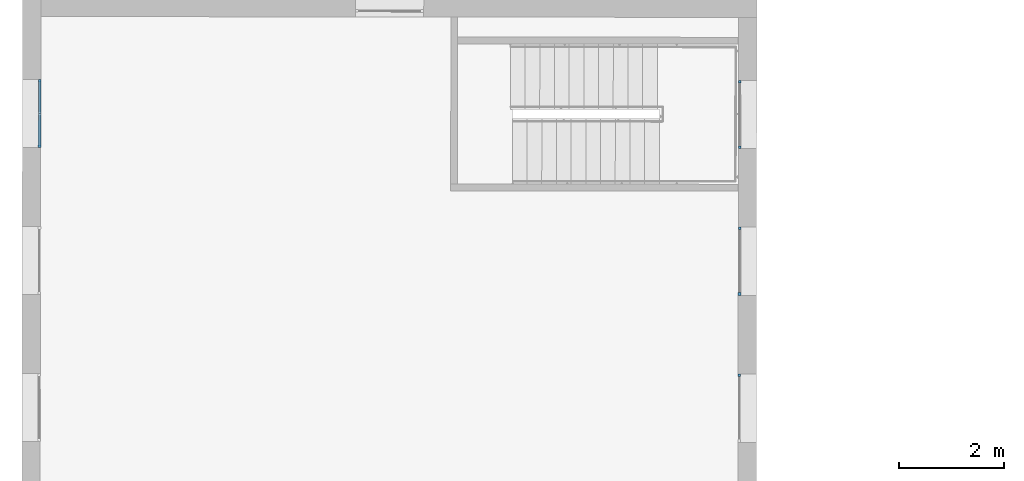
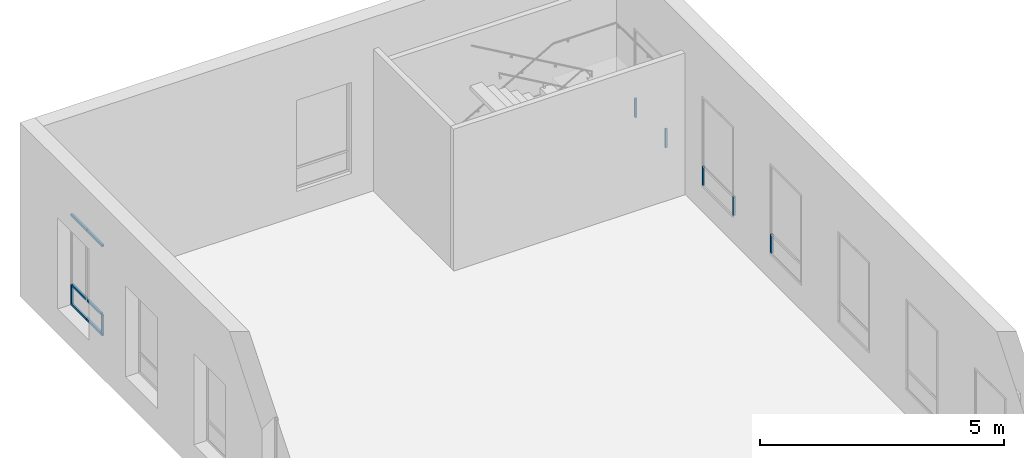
# One storey, part 18 of 35: 13 members, 4 elements without a shape of their own.
"""IFC2X3 building model written with IfcOpenShell, lengths in metres."""

from ifc_helpers import new_model, entity, si_unit, converted_unit, derived_unit, direction, frame, origin, origin_2d_with_axis, place, context, subcontext, project, spatial, rectangle, extrude, source, transform, mapped, material, type_object, type_shapes, element, aggregate, save


model = new_model("IFC2X3")

# Units and contexts
model_context = context("Model", 3, precision=1e-05, world=origin(), true_north=direction((6.123233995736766e-17, 1.0)))
body_context = subcontext(model_context, "Body", "Model", "MODEL_VIEW")
ifc_project = project(units=[si_unit("LENGTHUNIT", "METRE"), si_unit("AREAUNIT", "SQUARE_METRE"), converted_unit("PLANEANGLEUNIT", "DEGREE", entity("IfcPlaneAngleMeasure", 0.017453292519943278), si_unit("PLANEANGLEUNIT", "RADIAN"), dimensions=[0, 0, 0, 0, 0, 0, 0]), derived_unit("THERMALTRANSMITTANCEUNIT", [(si_unit("MASSUNIT", "GRAM", prefix="KILO"), 1), (si_unit("THERMODYNAMICTEMPERATUREUNIT", "KELVIN"), -1), (si_unit("TIMEUNIT", "SECOND"), -3)])], contexts=[model_context])

# Site, building, storey
site_placement = place(None, frame((1253.6752467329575, 2072.143113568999, 91.49999999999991), z_axis=(0.0, 0.0, 1.0), x_axis=(0.7237211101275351, 0.6900925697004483, 0.0)))
site = spatial("IfcSite", under=ifc_project, at=site_placement, Name="Surface", CompositionType="ELEMENT")
building_placement = place(site_placement, origin())
building = spatial("IfcBuilding", under=site, at=building_placement, CompositionType="ELEMENT")
storey_placement = place(building_placement, frame((0.0, 0.0, 3.549999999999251)))
storey = spatial("IfcBuildingStorey", under=building, at=storey_placement, Name="1-R+1", CompositionType="ELEMENT", Elevation=3.549999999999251)

# Curtain wall, members
curtain_wall_type = type_object("IfcCurtainWallType", Name="Mur-rideau:Menuiserie Ext 1F+1OB VERTIC", PredefinedType="NOTDEFINED")
curtain_wall_1_placement = place(storey_placement, frame((0.0, 0.0, -3.549999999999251)))
curtain_wall_1 = element("IfcCurtainWall", 1, at=curtain_wall_1_placement, inside=storey, type_object=curtain_wall_type, Name="Mur-rideau:Menuiserie Ext 1F+1OB VERTIC", ObjectType="Mur-rideau:Menuiserie Ext 1F+1OB VERTIC")
ifc_material = material(Name="OMD_Aluminium Men Ext")
member_type_1 = type_object("IfcMemberType", Name="Meneau rectangulaire:50x50", PredefinedType="MULLION", material=ifc_material)
shared_shape_1 = source(origin(), body_context, "Body", "SweptSolid", [
    extrude(rectangle(XDim=0.05, YDim=0.049999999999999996, at=origin_2d_with_axis()), frame((-0.025, 0.0, -0.4699999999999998), z_axis=(0.0, 0.0, 1.0), x_axis=(-1.0, 0.0, 0.0)), (0.0, 0.0, 1.0), 0.4699999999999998),
])
type_shapes(member_type_1, [shared_shape_1])
member_1_placement = place(curtain_wall_1_placement, frame((165.36430469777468, 26.40354917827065, 4.219999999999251), z_axis=(0.0, 0.0, -1.0), x_axis=(0.6911544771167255, 0.7227070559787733, 0.0)))
member_1 = element("IfcMember", 2, at=member_1_placement, type_object=member_type_1, material=ifc_material, Name="Meneau rectangulaire:50x50", ObjectType="Meneau rectangulaire:50x50", context=body_context, shape_type="MappedRepresentation", body=[
    mapped(shared_shape_1, transform((0.0, 0.0, 0.0), scale=1.0)),
])
member_type_2 = type_object("IfcMemberType", Name="Meneau rectangulaire:50x50", PredefinedType="MULLION", material=ifc_material)
shared_shape_2 = source(origin(), body_context, "Body", "SweptSolid", [
    extrude(rectangle(XDim=0.05, YDim=0.049999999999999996, at=origin_2d_with_axis()), frame((-0.025, 0.0, -0.4699999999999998), z_axis=(0.0, 0.0, 1.0), x_axis=(-1.0, 0.0, 0.0)), (0.0, 0.0, 1.0), 0.4699999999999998),
])
type_shapes(member_type_2, [shared_shape_2])
member_2_placement = place(curtain_wall_1_placement, frame((164.46601405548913, 25.464249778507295, 4.689999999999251), z_axis=(0.0, 0.0, 1.0), x_axis=(-0.6911544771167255, -0.7227070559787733, 0.0)))
member_2 = element("IfcMember", 3, at=member_2_placement, type_object=member_type_2, material=ifc_material, Name="Meneau rectangulaire:50x50", ObjectType="Meneau rectangulaire:50x50", context=body_context, shape_type="MappedRepresentation", body=[
    mapped(shared_shape_2, transform((0.0, 0.0, 0.0), scale=1.0)),
])
member_type_3 = type_object("IfcMemberType", Name="Meneau rectangulaire:50x50", PredefinedType="MULLION", material=ifc_material)
shared_shape_3 = source(origin(), body_context, "Body", "SweptSolid", [
    extrude(rectangle(XDim=0.05, YDim=0.05, at=origin_2d_with_axis()), frame((-0.025, 0.0, -0.6498479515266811), z_axis=(0.0, 0.0, 1.0), x_axis=(-1.0, 0.0, 0.0)), (0.0, 0.0, 1.0), 0.6498479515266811),
])
type_shapes(member_type_3, [shared_shape_3])
member_3_placement = place(curtain_wall_1_placement, frame((164.46601405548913, 25.46424977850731, 4.169999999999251), z_axis=(-0.6911544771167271, -0.7227070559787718, 0.0), x_axis=(0.0, 0.0, -1.0)))
member_3 = element("IfcMember", 4, at=member_3_placement, type_object=member_type_3, material=ifc_material, Name="Meneau rectangulaire:50x50", ObjectType="Meneau rectangulaire:50x50", context=body_context, shape_type="MappedRepresentation", body=[
    mapped(shared_shape_3, transform((0.0, 0.0, 0.0), scale=1.0)),
])
member_type_4 = type_object("IfcMemberType", Name="Meneau rectangulaire:50x50", PredefinedType="MULLION", material=ifc_material)
shared_shape_4 = source(origin(), body_context, "Body", "SweptSolid", [
    extrude(rectangle(XDim=0.05, YDim=0.05, at=origin_2d_with_axis()), frame((-0.025, 0.0, -0.6498479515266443), z_axis=(0.0, 0.0, 1.0), x_axis=(-1.0, 0.0, 0.0)), (0.0, 0.0, 1.0), 0.64984795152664),
])
type_shapes(member_type_4, [shared_shape_4])
member_4_placement = place(curtain_wall_1_placement, frame((164.91515937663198, 25.933899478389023, 4.169999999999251), z_axis=(-0.6911544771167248, -0.722707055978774, 0.0), x_axis=(0.0, 0.0, -1.0)))
member_4 = element("IfcMember", 5, at=member_4_placement, type_object=member_type_4, material=ifc_material, Name="Meneau rectangulaire:50x50", ObjectType="Meneau rectangulaire:50x50", context=body_context, shape_type="MappedRepresentation", body=[
    mapped(shared_shape_4, transform((0.0, 0.0, 0.0), scale=1.0)),
])
member_type_5 = type_object("IfcMemberType", Name="Meneau rectangulaire:50x50", PredefinedType="MULLION", material=ifc_material)
shared_shape_5 = source(origin(), body_context, "Body", "SweptSolid", [
    extrude(rectangle(XDim=0.05, YDim=0.049999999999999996, at=origin_2d_with_axis()), frame((-0.025, 0.0, -0.6498479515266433), z_axis=(0.0, 0.0, 1.0), x_axis=(-1.0, 0.0, 0.0)), (0.0, 0.0, 1.0), 0.6498479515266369),
])
type_shapes(member_type_5, [shared_shape_5])
member_5_placement = place(curtain_wall_1_placement, frame((165.36430469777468, 26.403549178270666, 6.4499999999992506), z_axis=(0.6911544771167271, 0.7227070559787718, 0.0), x_axis=(0.0, 0.0, 1.0)))
member_5 = element("IfcMember", 6, at=member_5_placement, type_object=member_type_5, material=ifc_material, Name="Meneau rectangulaire:50x50", ObjectType="Meneau rectangulaire:50x50", context=body_context, shape_type="MappedRepresentation", body=[
    mapped(shared_shape_5, transform((0.0, 0.0, 0.0), scale=1.0)),
])
member_type_6 = type_object("IfcMemberType", Name="Meneau rectangulaire:50x50", PredefinedType="MULLION", material=ifc_material)
shared_shape_6 = source(origin(), body_context, "Body", "SweptSolid", [
    extrude(rectangle(XDim=0.05, YDim=0.05, at=origin_2d_with_axis()), frame((0.0, 0.0, -0.5748479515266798), z_axis=(0.0, 0.0, 1.0), x_axis=(-1.0, 0.0, 0.0)), (0.0, 0.0, 1.0), 0.5748479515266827),
])
type_shapes(member_type_6, [shared_shape_6])
member_6_placement = place(curtain_wall_1_placement, frame((164.89788051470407, 25.91583180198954, 4.689999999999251), z_axis=(0.6911544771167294, 0.7227070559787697, 0.0), x_axis=(0.0, 0.0, 1.0)))
member_6 = element("IfcMember", 7, at=member_6_placement, type_object=member_type_6, material=ifc_material, Name="Meneau rectangulaire:50x50", ObjectType="Meneau rectangulaire:50x50", context=body_context, shape_type="MappedRepresentation", body=[
    mapped(shared_shape_6, transform((0.0, 0.0, 0.0), scale=1.0)),
])
member_7_placement = place(curtain_wall_1_placement, frame((165.32974697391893, 26.36741382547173, 4.689999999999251), z_axis=(0.6911544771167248, 0.722707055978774, 0.0), x_axis=(0.0, 0.0, 1.0)))
member_7 = element("IfcMember", 8, at=member_7_placement, type_object=member_type_6, material=ifc_material, Name="Meneau rectangulaire:50x50", ObjectType="Meneau rectangulaire:50x50", context=body_context, shape_type="MappedRepresentation", body=[
    mapped(shared_shape_6, transform((0.0, 0.0, 0.0), scale=1.0)),
])
member_type_7 = type_object("IfcMemberType", Name="Meneau rectangulaire:50x50", PredefinedType="MULLION", material=ifc_material)
shared_shape_7 = source(origin(), body_context, "Body", "SweptSolid", [
    extrude(rectangle(XDim=0.05, YDim=0.05000000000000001, at=origin_2d_with_axis()), frame((-0.025, 0.0, -0.6498479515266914), z_axis=(0.0, 0.0, 1.0), x_axis=(-1.0, 0.0, 0.0)), (0.0, 0.0, 1.0), 0.6498479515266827),
])
type_shapes(member_type_7, [shared_shape_7])
member_8_placement = place(curtain_wall_1_placement, frame((164.915159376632, 25.933899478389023, 6.4499999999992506), z_axis=(0.6911544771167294, 0.7227070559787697, 0.0), x_axis=(0.0, 0.0, 1.0)))
member_8 = element("IfcMember", 9, at=member_8_placement, type_object=member_type_7, material=ifc_material, Name="Meneau rectangulaire:50x50", ObjectType="Meneau rectangulaire:50x50", context=body_context, shape_type="MappedRepresentation", body=[
    mapped(shared_shape_7, transform((0.0, 0.0, 0.0), scale=1.0)),
])
aggregate(curtain_wall_1, [member_5, member_3, member_1, member_2, member_6, member_8, member_4, member_7])

# Curtain wall, member
curtain_wall_2_placement = place(storey_placement, frame((0.0, 0.0, -3.549999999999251)))
curtain_wall_2 = element("IfcCurtainWall", 10, at=curtain_wall_2_placement, inside=storey, type_object=curtain_wall_type, Name="Mur-rideau:Menuiserie Ext 1F+1OB VERTIC", ObjectType="Mur-rideau:Menuiserie Ext 1F+1OB VERTIC")
member_type_8 = type_object("IfcMemberType", Name="Meneau rectangulaire:50x50", PredefinedType="MULLION", material=ifc_material)
shared_shape_8 = source(origin(), body_context, "Body", "SweptSolid", [
    extrude(rectangle(XDim=0.05, YDim=0.049999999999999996, at=origin_2d_with_axis()), frame((-0.025, 0.0, -0.4699999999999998), z_axis=(0.0, 0.0, 1.0), x_axis=(-1.0, 0.0, 0.0)), (0.0, 0.0, 1.0), 0.4699999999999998),
])
type_shapes(member_type_8, [shared_shape_8])
member_9_placement = place(curtain_wall_2_placement, frame((175.0059086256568, 17.187244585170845, 4.219999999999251), z_axis=(0.0, 0.0, -1.0), x_axis=(0.6909838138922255, 0.722870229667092, 0.0)))
member_9 = element("IfcMember", 11, at=member_9_placement, type_object=member_type_8, material=ifc_material, Name="Meneau rectangulaire:50x50", ObjectType="Meneau rectangulaire:50x50", context=body_context, shape_type="MappedRepresentation", body=[
    mapped(shared_shape_8, transform((0.0, 0.0, 0.0), scale=1.0)),
])

curtain_wall_3_placement = place(storey_placement, frame((0.0, 0.0, -3.549999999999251)))
curtain_wall_3 = element("IfcCurtainWall", 12, at=curtain_wall_3_placement, inside=storey, type_object=curtain_wall_type, Name="Mur-rideau:Menuiserie Ext 1F+1OB VERTIC", ObjectType="Mur-rideau:Menuiserie Ext 1F+1OB VERTIC")
member_10_placement = place(curtain_wall_3_placement, frame((173.07389250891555, 15.166072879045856, 4.219999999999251), z_axis=(0.0, 0.0, -1.0), x_axis=(0.6909838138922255, 0.722870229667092, 0.0)))
member_10 = element("IfcMember", 13, at=member_10_placement, type_object=member_type_8, material=ifc_material, Name="Meneau rectangulaire:50x50", ObjectType="Meneau rectangulaire:50x50", context=body_context, shape_type="MappedRepresentation", body=[
    mapped(shared_shape_8, transform((0.0, 0.0, 0.0), scale=1.0)),
])

curtain_wall_4_placement = place(storey_placement, frame((0.0, 0.0, -3.549999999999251)))
curtain_wall_4 = element("IfcCurtainWall", 14, at=curtain_wall_4_placement, inside=storey, type_object=curtain_wall_type, Name="Mur-rideau:Menuiserie Ext 1F+1OB VERTIC", ObjectType="Mur-rideau:Menuiserie Ext 1F+1OB VERTIC")
member_11_placement = place(curtain_wall_4_placement, frame((171.13913783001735, 13.14203623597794, 4.219999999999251), z_axis=(0.0, 0.0, -1.0), x_axis=(0.6909838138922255, 0.722870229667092, 0.0)))
member_11 = element("IfcMember", 15, at=member_11_placement, type_object=member_type_8, material=ifc_material, Name="Meneau rectangulaire:50x50", ObjectType="Meneau rectangulaire:50x50", context=body_context, shape_type="MappedRepresentation", body=[
    mapped(shared_shape_8, transform((0.0, 0.0, 0.0), scale=1.0)),
])
aggregate(curtain_wall_4, [member_11])

# Member
member_type_9 = type_object("IfcMemberType", Name="Meneau rectangulaire:50x50", PredefinedType="MULLION", material=ifc_material)
shared_shape_9 = source(origin(), body_context, "Body", "SweptSolid", [
    extrude(rectangle(XDim=0.05, YDim=0.05000000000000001, at=origin_2d_with_axis()), frame((-0.025, 0.0, -0.4699999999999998), z_axis=(0.0, 0.0, 1.0), x_axis=(-1.0, 0.0, 0.0)), (0.0, 0.0, 1.0), 0.4699999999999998),
])
type_shapes(member_type_9, [shared_shape_9])
member_12_placement = place(curtain_wall_2_placement, frame((174.1078397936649, 16.247733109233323, 4.689999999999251), z_axis=(0.0, 0.0, 1.0), x_axis=(-0.6909838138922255, -0.722870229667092, 0.0)))
member_12 = element("IfcMember", 16, at=member_12_placement, type_object=member_type_9, material=ifc_material, Name="Meneau rectangulaire:50x50", ObjectType="Meneau rectangulaire:50x50", context=body_context, shape_type="MappedRepresentation", body=[
    mapped(shared_shape_9, transform((0.0, 0.0, 0.0), scale=1.0)),
])

aggregate(curtain_wall_2, [member_9, member_12])

member_13_placement = place(curtain_wall_3_placement, frame((172.17582367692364, 14.22656140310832, 4.689999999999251), z_axis=(0.0, 0.0, 1.0), x_axis=(-0.6909838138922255, -0.722870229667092, 0.0)))
member_13 = element("IfcMember", 17, at=member_13_placement, type_object=member_type_9, material=ifc_material, Name="Meneau rectangulaire:50x50", ObjectType="Meneau rectangulaire:50x50", context=body_context, shape_type="MappedRepresentation", body=[
    mapped(shared_shape_9, transform((0.0, 0.0, 0.0), scale=1.0)),
])

aggregate(curtain_wall_3, [member_10, member_13])

save(model, "model.ifc")
